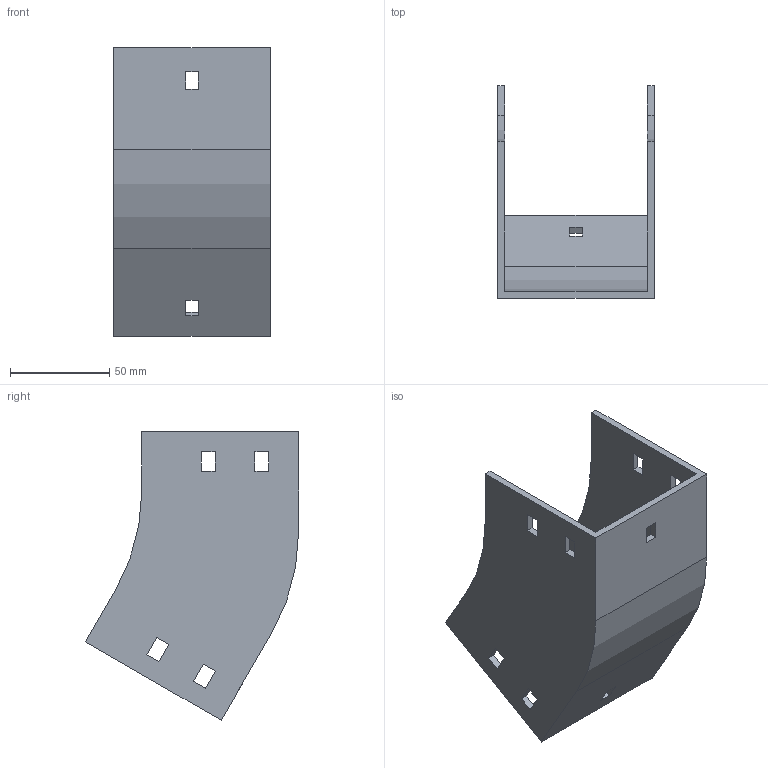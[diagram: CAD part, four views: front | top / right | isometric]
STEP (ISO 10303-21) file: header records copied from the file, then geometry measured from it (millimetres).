
FILE_DESCRIPTION (( 'STEP AP214' ), '1' );
FILE_NAME ('32F1C075.step', '2025-02-21T12:58:24', ( '' ), ( '' ), 'SwSTEP 2.0', 'SolidWorks 2023', '' );
FILE_SCHEMA (( 'AUTOMOTIVE_DESIGN' ));
Length unit declared in the file: millimetre
Products named in the file (1): 32F1C075
Bounding box: 79 x 107.4 x 145.48 mm (x, y, z)
Volume: 110904 mm3; surface area: 66945.7 mm2
Topology: 1 solids, 1 shells, 58 faces, 168 edges, 112 vertices
Faces by surface type: plane 54, cylinder 4
Entity records: 1943 total; most frequent: CARTESIAN_POINT 339, ORIENTED_EDGE 336, DIRECTION 294, EDGE_CURVE 168, VECTOR 160, LINE 160, VERTEX_POINT 112, EDGE_LOOP 78
